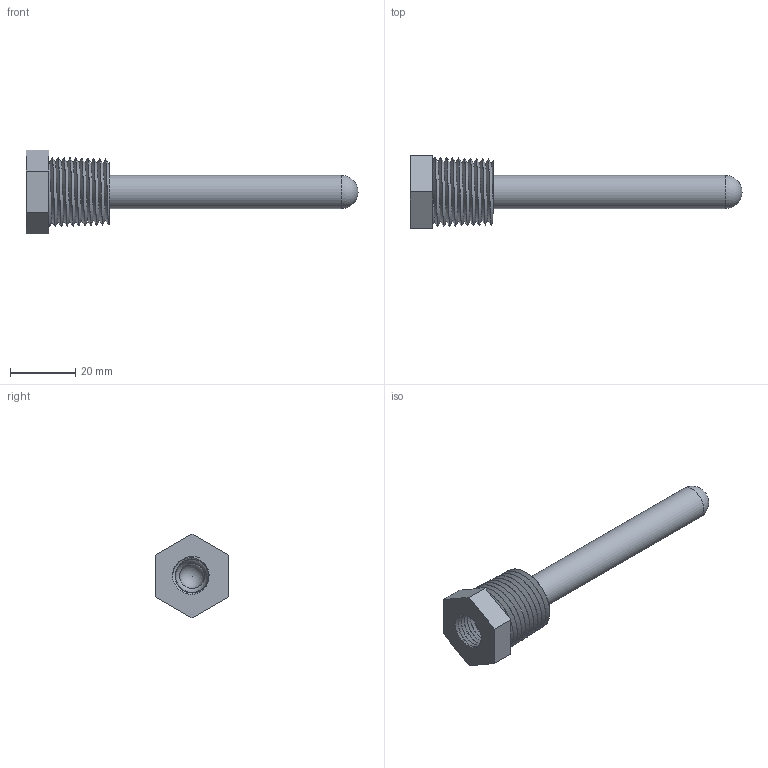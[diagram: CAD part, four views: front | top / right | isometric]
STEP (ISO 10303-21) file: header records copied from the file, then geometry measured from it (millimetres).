
FILE_DESCRIPTION(/* description */ (''),/* implementation_level */ '2;1');
FILE_NAME(/* name */ 'R:\Temp\J. Narvaez\IAN DRAWINGS\002 - Sensors\005 - MCS-WELL\14-002-1_2-3-B.stp',/* time_stamp */ '2022-11-14T09:45:19-05:00',/* author */ ('mjeter'),/* organization */ ('unknown'),/* preprocessor_version */ 'ST-DEVELOPER v19',/* originating_system */ 'Autodesk Inventor 2023',/* authorisation */ '');
FILE_SCHEMA (('AUTOMOTIVE_DESIGN { 1 0 10303 214 3 1 1 }'));
Length unit declared in the file: inch
Products named in the file (1): 14-002-1_2-3-B
Bounding box: 101.6 x 22.23 x 25.66 mm (x, y, z)
Volume: 9528.7 mm3; surface area: 8338.7 mm2
Topology: 1 solids, 1 shells, 32 faces, 89 edges, 60 vertices
Faces by surface type: cone 12, plane 11, bspline 4, cylinder 3, sphere 2
Full cylindrical faces by diameter (mm): 7.62 x1, 10.16 x1, 11.176 x1
Entity records: 6678 total; most frequent: CARTESIAN_POINT 5873, ORIENTED_EDGE 174, DIRECTION 126, EDGE_CURVE 87, VERTEX_POINT 60, AXIS2_PLACEMENT_3D 47, B_SPLINE_CURVE_WITH_KNOTS 37, EDGE_LOOP 35
